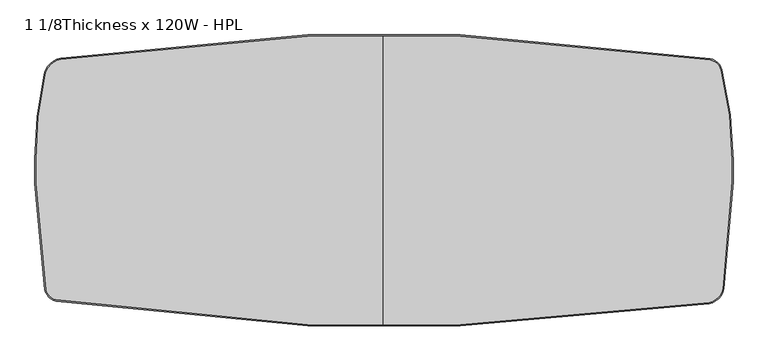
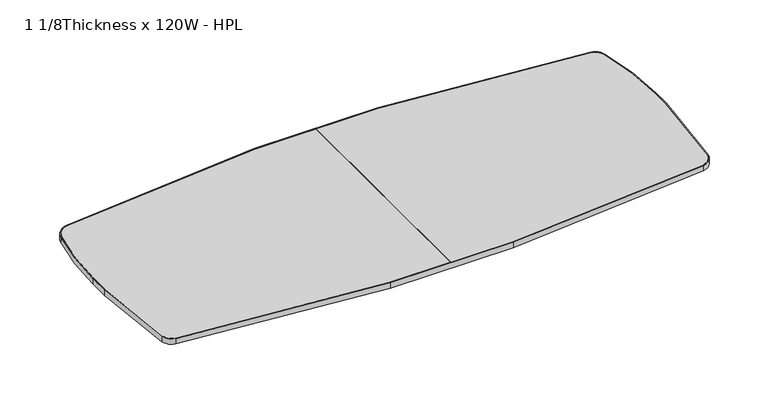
"""IFC4 building model written with IfcOpenShell, lengths in millimetres: furniture geometry, Steelcase - Groupwork - Table - Conference Table Top - Boat Shaped : 1 1/8Thickness x 120W - HPL."""

from ifc_helpers import new_model, si_unit, point, frame, frame_2d, origin, place, context, project, spatial, polyline, circle_curve, trimmed, segment, composite_curve, outline, extrude, source, transform, mapped, element, save


def furniture_1_1_8thickness_x_120w_hpl_e821b9b4(model_context):
    return source(origin(), model_context, "Body", "SweptSolid", [
        extrude(outline(composite_curve([segment(polyline([(904.24, 1219.2), (1542.7815864, 1219.2)]), True, "CONTINUOUS"), segment(trimmed(circle_curve(frame_2d((1542.7815864, -4333.0645975)), 5552.2645975), [point((1542.7815864, 1219.2))], [point((2589.4646936, 1119.6500139))], False, "CARTESIAN"), True, "CONTINUOUS"), segment(trimmed(circle_curve(frame_2d((2577.4940146, 1057.2885447)), 63.5), [point((2589.4646936, 1119.6500139))], [point((2639.1115882, 1072.635356))], False, "CARTESIAN"), True, "CONTINUOUS"), segment(trimmed(circle_curve(frame_2d((1111.4597468, 692.15)), 1574.3218396), [point((2639.1115882, 1072.635356))], [point((2685.7815864, 692.15))], False, "CARTESIAN"), True, "CONTINUOUS"), segment(polyline([(2685.7815864, 692.15), (2685.7815864, 603.25)]), True, "CONTINUOUS"), segment(trimmed(circle_curve(frame_2d((72.6283876, 603.25)), 2613.1531989), [point((2685.7815864, 603.25))], [point((2647.0789014, 155.1716667))], False, "CARTESIAN"), True, "CONTINUOUS"), segment(trimmed(circle_curve(frame_2d((2572.0074784, 168.2377086)), 76.2), [point((2647.0789014, 155.1716667))], [point((2585.5276111, 93.2467357))], False, "CARTESIAN"), True, "CONTINUOUS"), segment(trimmed(circle_curve(frame_2d((1542.7815864, 5876.9576085)), 5876.9576085), [point((2585.5276111, 93.2467357))], [point((1542.7815864, 0.0))], False, "CARTESIAN"), True, "CONTINUOUS"), segment(polyline([(1542.7815864, 0.0), (904.24, 0.0)]), True, "CONTINUOUS"), segment(trimmed(circle_curve(frame_2d((904.24, 5379.0678276)), 5379.0678276), [point((904.24, 0.0))], [point((-150.2140744, 104.3643005))], False, "CARTESIAN"), True, "CONTINUOUS"), segment(trimmed(circle_curve(frame_2d((-138.6259942, 162.3314413)), 59.1140678), [point((-150.2140744, 104.3643005))], [point((-196.6959626, 151.2701673))], False, "CARTESIAN"), True, "CONTINUOUS"), segment(trimmed(circle_curve(frame_2d((2142.7913607, 596.9)), 2381.5513607), [point((-196.6959626, 151.2701673))], [point((-238.76, 596.9))], False, "CARTESIAN"), True, "CONTINUOUS"), segment(polyline([(-238.76, 596.9), (-238.76, 698.5)]), True, "CONTINUOUS"), segment(trimmed(circle_curve(frame_2d((1422.3639321, 698.5)), 1661.1239321), [point((-238.76, 698.5))], [point((-200.3790866, 1053.5180462))], False, "CARTESIAN"), True, "CONTINUOUS"), segment(trimmed(circle_curve(frame_2d((-113.5331556, 1034.5181969)), 88.9), [point((-200.3790866, 1053.5180462))], [point((-130.1188768, 1121.8573282))], False, "CARTESIAN"), True, "CONTINUOUS"), segment(trimmed(circle_curve(frame_2d((904.24, -4324.9969173)), 5544.1969173), [point((-130.1188768, 1121.8573282))], [point((904.24, 1219.2))], False, "CARTESIAN"), True, "CONTINUOUS")], self_intersect=False), holes=[composite_curve([segment(trimmed(circle_curve(frame_2d((2577.4940146, 1057.2885447)), 58.42), [point((2634.1821823, 1071.4076111))], [point((2588.5070393, 1114.6610964))], True, "CARTESIAN"), True, "CONTINUOUS"), segment(trimmed(circle_curve(frame_2d((1542.7815864, -4333.0645975)), 5547.1845975), [point((2588.5070393, 1114.6610964))], [point((1542.7815864, 1214.12))], True, "CARTESIAN"), True, "CONTINUOUS"), segment(polyline([(1542.7815864, 1214.12), (904.24, 1214.12)]), True, "CONTINUOUS"), segment(trimmed(circle_curve(frame_2d((904.24, -4324.9969173)), 5539.1169173), [point((904.24, 1214.12))], [point((-129.1711213, 1116.8665207))], True, "CARTESIAN"), True, "CONTINUOUS"), segment(trimmed(circle_curve(frame_2d((-113.5331556, 1034.5181969)), 83.82), [point((-129.1711213, 1116.8665207))], [point((-195.416462, 1052.4323405))], True, "CARTESIAN"), True, "CONTINUOUS"), segment(trimmed(circle_curve(frame_2d((1422.3639321, 698.5)), 1656.0439321), [point((-195.416462, 1052.4323405))], [point((-233.68, 698.5))], True, "CARTESIAN"), True, "CONTINUOUS"), segment(polyline([(-233.68, 698.5), (-233.68, 596.9)]), True, "CONTINUOUS"), segment(trimmed(circle_curve(frame_2d((2142.7913607, 596.9)), 2376.4713607), [point((-233.68, 596.9))], [point((-191.7056878, 152.220724))], True, "CARTESIAN"), True, "CONTINUOUS"), segment(trimmed(circle_curve(frame_2d((-138.6259942, 162.3314413)), 54.0340678), [point((-191.7056878, 152.220724))], [point((-149.2182464, 109.3457387))], True, "CARTESIAN"), True, "CONTINUOUS"), segment(trimmed(circle_curve(frame_2d((904.24, 5379.0678276)), 5373.9878276), [point((-149.2182464, 109.3457387))], [point((904.24, 5.08))], True, "CARTESIAN"), True, "CONTINUOUS"), segment(polyline([(904.24, 5.08), (1542.7815864, 5.08)]), True, "CONTINUOUS"), segment(trimmed(circle_curve(frame_2d((1542.7815864, 5876.9576085)), 5871.8776085), [point((1542.7815864, 5.08))], [point((2584.6262689, 98.2461339))], True, "CARTESIAN"), True, "CONTINUOUS"), segment(trimmed(circle_curve(frame_2d((2572.0074784, 168.2377086)), 71.12), [point((2584.6262689, 98.2461339))], [point((2642.0741398, 156.0427362))], True, "CARTESIAN"), True, "CONTINUOUS"), segment(trimmed(circle_curve(frame_2d((72.6283876, 603.25)), 2608.0731989), [point((2642.0741398, 156.0427362))], [point((2680.7015864, 603.25))], True, "CARTESIAN"), True, "CONTINUOUS"), segment(polyline([(2680.7015864, 603.25), (2680.7015864, 692.15)]), True, "CONTINUOUS"), segment(trimmed(circle_curve(frame_2d((1111.4597468, 692.15)), 1569.2418396), [point((2680.7015864, 692.15))], [point((2634.1821823, 1071.4076111))], True, "CARTESIAN"), True, "CONTINUOUS")], self_intersect=False)]), frame((0.0, 0.0, 694.944), z_axis=(0.0, 0.0, 1.0), x_axis=(1.0, 0.0, 0.0)), (0.0, 0.0, 1.0), 28.702),
        extrude(outline(composite_curve([segment(polyline([(904.24, 1214.12), (1217.6125, 1214.12), (1217.6125, 5.08), (904.24, 5.08)]), True, "CONTINUOUS"), segment(trimmed(circle_curve(frame_2d((904.24, 5379.0678276)), 5373.9878276), [point((904.24, 5.08))], [point((-149.2182464, 109.3457387))], False, "CARTESIAN"), True, "CONTINUOUS"), segment(trimmed(circle_curve(frame_2d((-138.6259942, 162.3314413)), 54.0340678), [point((-149.2182464, 109.3457387))], [point((-191.7056878, 152.220724))], False, "CARTESIAN"), True, "CONTINUOUS"), segment(trimmed(circle_curve(frame_2d((2142.7913607, 596.9)), 2376.4713607), [point((-191.7056878, 152.220724))], [point((-233.68, 596.9))], False, "CARTESIAN"), True, "CONTINUOUS"), segment(polyline([(-233.68, 596.9), (-233.68, 698.5)]), True, "CONTINUOUS"), segment(trimmed(circle_curve(frame_2d((1422.3639321, 698.5)), 1656.0439321), [point((-233.68, 698.5))], [point((-195.416462, 1052.4323405))], False, "CARTESIAN"), True, "CONTINUOUS"), segment(trimmed(circle_curve(frame_2d((-113.5331556, 1034.5181969)), 83.82), [point((-195.416462, 1052.4323405))], [point((-129.1711213, 1116.8665207))], False, "CARTESIAN"), True, "CONTINUOUS"), segment(trimmed(circle_curve(frame_2d((904.24, -4324.9969173)), 5539.1169173), [point((-129.1711213, 1116.8665207))], [point((904.24, 1214.12))], False, "CARTESIAN"), True, "CONTINUOUS")], self_intersect=False)), frame((0.0, 0.0, 694.944), z_axis=(0.0, 0.0, 1.0), x_axis=(1.0, 0.0, 0.0)), (0.0, 0.0, 1.0), 28.702),
        extrude(outline(composite_curve([segment(trimmed(circle_curve(frame_2d((2577.4940146, 1057.2885447)), 58.42), [point((2588.5070393, 1114.6610964))], [point((2634.1821823, 1071.4076111))], False, "CARTESIAN"), True, "CONTINUOUS"), segment(trimmed(circle_curve(frame_2d((1111.4597468, 692.15)), 1569.2418396), [point((2634.1821823, 1071.4076111))], [point((2680.7015864, 692.15))], False, "CARTESIAN"), True, "CONTINUOUS"), segment(polyline([(2680.7015864, 692.15), (2680.7015864, 603.25)]), True, "CONTINUOUS"), segment(trimmed(circle_curve(frame_2d((72.6283876, 603.25)), 2608.0731989), [point((2680.7015864, 603.25))], [point((2642.0741398, 156.0427362))], False, "CARTESIAN"), True, "CONTINUOUS"), segment(trimmed(circle_curve(frame_2d((2572.0074784, 168.2377086)), 71.12), [point((2642.0741398, 156.0427362))], [point((2584.6262689, 98.2461339))], False, "CARTESIAN"), True, "CONTINUOUS"), segment(trimmed(circle_curve(frame_2d((1542.7815864, 5876.9576085)), 5871.8776085), [point((2584.6262689, 98.2461339))], [point((1542.7815864, 5.08))], False, "CARTESIAN"), True, "CONTINUOUS"), segment(polyline([(1542.7815864, 5.08), (1220.7875, 5.08), (1220.7875, 1214.12), (1542.7815864, 1214.12)]), True, "CONTINUOUS"), segment(trimmed(circle_curve(frame_2d((1542.7815864, -4333.0645975)), 5547.1845975), [point((1542.7815864, 1214.12))], [point((2588.5070393, 1114.6610964))], False, "CARTESIAN"), True, "CONTINUOUS")], self_intersect=False)), frame((0.0, 0.0, 694.944), z_axis=(0.0, 0.0, 1.0), x_axis=(1.0, 0.0, 0.0)), (0.0, 0.0, 1.0), 28.702),
    ])


if __name__ == "__main__":
    model = new_model("IFC4")
    model_context = context("Model", 3, world=origin())
    ifc_project = project(units=[si_unit("LENGTHUNIT", "METRE", prefix="MILLI")], contexts=[model_context])
    site = spatial("IfcSite", under=ifc_project)
    building = spatial("IfcBuilding", under=site)
    placement = place(None, origin())
    furniture_1_1_8thickness_x_120w_hpl_shape = furniture_1_1_8thickness_x_120w_hpl_e821b9b4(model_context)
    element("IfcFurniture", 1, ObjectType="Steelcase - Groupwork - Table - Conference Table Top - Boat Shaped : 1 1/8Thickness x 120W - HPL", at=placement, inside=building, context=model_context, shape_type="MappedRepresentation", body=[
        mapped(furniture_1_1_8thickness_x_120w_hpl_shape, transform((0.0, 0.0, 0.0), x_axis=(1.0, 0.0, 0.0), y_axis=(0.0, 1.0, 0.0), z_axis=(0.0, 0.0, 1.0))),
    ])
    save(model, "model.ifc")
